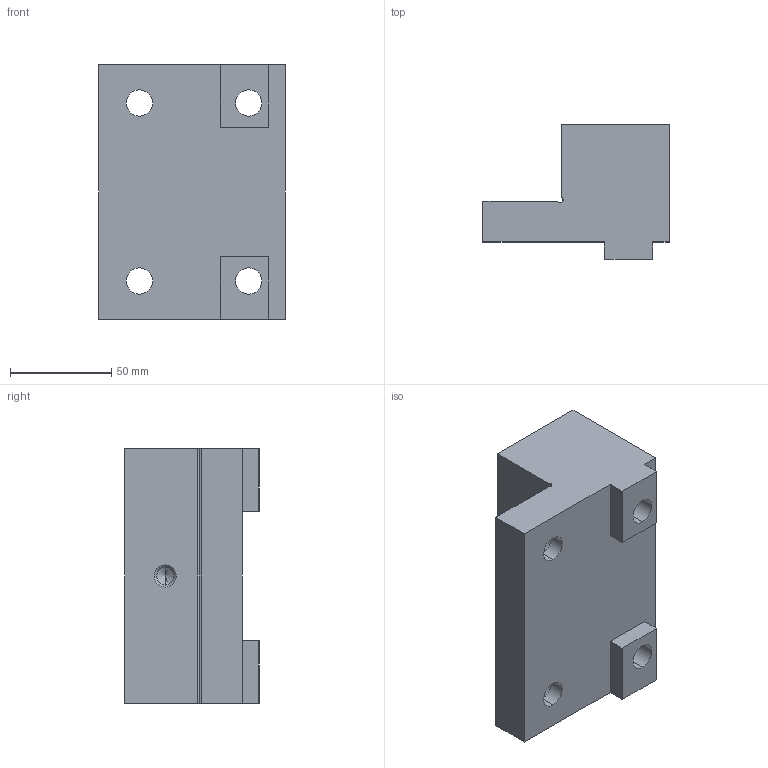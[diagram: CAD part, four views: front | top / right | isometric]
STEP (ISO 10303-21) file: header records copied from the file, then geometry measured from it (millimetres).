
FILE_DESCRIPTION (( 'STEP AP203' ), '1' );
FILE_NAME ('6921684012240.STEP', '2008-12-15T09:17:49', ( ' ' ), ( '' ), 'SwSTEP 2.0', 'SolidWorks 2008', '' );
FILE_SCHEMA (( 'CONFIG_CONTROL_DESIGN' ));
Length unit declared in the file: millimetre
Products named in the file (2): 6921684012240; 6921684012240_Kundenmodell
Assembly tree (1 placements, depth 2):
  6921684012240
    6921684012240_Kundenmodell
Bounding box: 92 x 66.5 x 126 mm (x, y, z)
Volume: 465201 mm3; surface area: 55432.2 mm2
Topology: 1 solids, 1 shells, 56 faces, 142 edges, 90 vertices
Faces by surface type: plane 26, cylinder 22, cone 8
Entity records: 1874 total; most frequent: DIRECTION 306, CARTESIAN_POINT 288, ORIENTED_EDGE 276, EDGE_CURVE 138, AXIS2_PLACEMENT_3D 108, VERTEX_POINT 90, VECTOR 90, LINE 90
